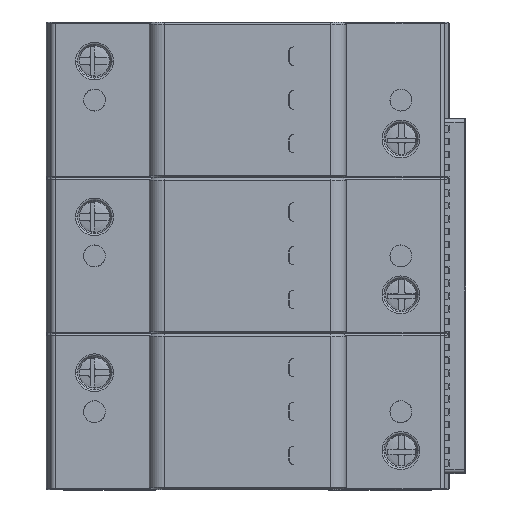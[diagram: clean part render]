
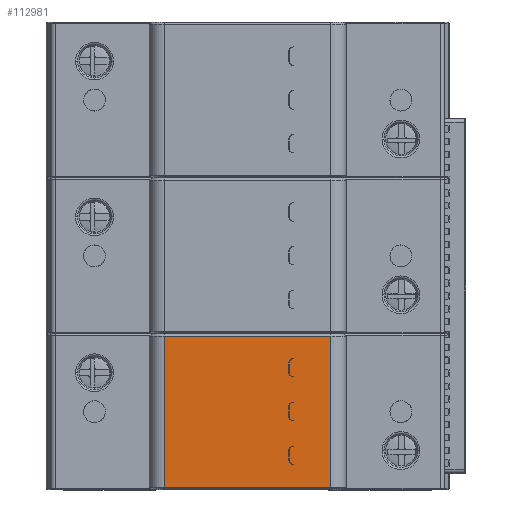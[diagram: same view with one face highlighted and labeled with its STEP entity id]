
A CAD part, top view. The second image highlights one B-rep face of the part: STEP entity #112981.
In plain terms, the highlighted planar face has unit normal (0, 0, 1).
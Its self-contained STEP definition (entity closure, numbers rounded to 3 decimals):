
#18317=DIRECTION('',(-1.,0.,0.));
#18318=VECTOR('',#18317,38.);
#18319=CARTESIAN_POINT('',(64.,0.55,31.2));
#18320=LINE('',#18319,#18318);
#18334=DIRECTION('',(0.,1.,0.));
#18335=VECTOR('',#18334,34.5);
#18336=CARTESIAN_POINT('',(26.,0.55,31.2));
#18337=LINE('',#18336,#18335);
#18342=CARTESIAN_POINT('',(55.45,6.7,31.2));
#18343=DIRECTION('',(0.,0.,1.));
#18344=DIRECTION('',(-1.,0.,0.));
#18345=AXIS2_PLACEMENT_3D('',#18342,#18343,#18344);
#18347=DIRECTION('',(0.,-1.,0.));
#18348=VECTOR('',#18347,2.2);
#18349=CARTESIAN_POINT('',(54.45,8.9,31.2));
#18350=LINE('',#18349,#18348);
#18351=CARTESIAN_POINT('',(55.45,8.9,31.2));
#18352=DIRECTION('',(0.,0.,1.));
#18353=DIRECTION('',(0.,1.,0.));
#18354=AXIS2_PLACEMENT_3D('',#18351,#18352,#18353);
#18356=CARTESIAN_POINT('',(55.4,8.9,31.2));
#18357=DIRECTION('',(0.,0.,-1.));
#18358=DIRECTION('',(-1.,0.,0.));
#18359=AXIS2_PLACEMENT_3D('',#18356,#18357,#18358);
#18361=CARTESIAN_POINT('',(55.4,6.7,31.2));
#18362=DIRECTION('',(0.,0.,-1.));
#18363=DIRECTION('',(0.,-1.,0.));
#18364=AXIS2_PLACEMENT_3D('',#18361,#18362,#18363);
#18366=CARTESIAN_POINT('',(55.45,16.7,31.2));
#18367=DIRECTION('',(0.,0.,1.));
#18368=DIRECTION('',(-1.,0.,0.));
#18369=AXIS2_PLACEMENT_3D('',#18366,#18367,#18368);
#18371=DIRECTION('',(0.,-1.,0.));
#18372=VECTOR('',#18371,2.2);
#18373=CARTESIAN_POINT('',(54.45,18.9,31.2));
#18374=LINE('',#18373,#18372);
#18375=CARTESIAN_POINT('',(55.45,18.9,31.2));
#18376=DIRECTION('',(0.,0.,1.));
#18377=DIRECTION('',(0.,1.,0.));
#18378=AXIS2_PLACEMENT_3D('',#18375,#18376,#18377);
#18380=CARTESIAN_POINT('',(55.4,18.9,31.2));
#18381=DIRECTION('',(0.,0.,-1.));
#18382=DIRECTION('',(-1.,0.,0.));
#18383=AXIS2_PLACEMENT_3D('',#18380,#18381,#18382);
#18385=CARTESIAN_POINT('',(55.4,16.7,31.2));
#18386=DIRECTION('',(0.,0.,-1.));
#18387=DIRECTION('',(0.,-1.,0.));
#18388=AXIS2_PLACEMENT_3D('',#18385,#18386,#18387);
#18390=CARTESIAN_POINT('',(55.45,26.7,31.2));
#18391=DIRECTION('',(0.,0.,1.));
#18392=DIRECTION('',(-1.,0.,0.));
#18393=AXIS2_PLACEMENT_3D('',#18390,#18391,#18392);
#18395=DIRECTION('',(0.,-1.,0.));
#18396=VECTOR('',#18395,2.2);
#18397=CARTESIAN_POINT('',(54.45,28.9,31.2));
#18398=LINE('',#18397,#18396);
#18399=CARTESIAN_POINT('',(55.45,28.9,31.2));
#18400=DIRECTION('',(0.,0.,1.));
#18401=DIRECTION('',(0.,1.,0.));
#18402=AXIS2_PLACEMENT_3D('',#18399,#18400,#18401);
#18404=CARTESIAN_POINT('',(55.4,28.9,31.2));
#18405=DIRECTION('',(0.,0.,-1.));
#18406=DIRECTION('',(-1.,0.,0.));
#18407=AXIS2_PLACEMENT_3D('',#18404,#18405,#18406);
#18409=CARTESIAN_POINT('',(55.4,26.7,31.2));
#18410=DIRECTION('',(0.,0.,-1.));
#18411=DIRECTION('',(0.,-1.,0.));
#18412=AXIS2_PLACEMENT_3D('',#18409,#18410,#18411);
#18418=DIRECTION('',(0.,-1.,0.));
#18419=VECTOR('',#18418,34.5);
#18420=CARTESIAN_POINT('',(64.,35.05,31.2));
#18421=LINE('',#18420,#18419);
#18473=DIRECTION('',(1.,0.,0.));
#18474=VECTOR('',#18473,38.);
#18475=CARTESIAN_POINT('',(26.,35.05,31.2));
#18476=LINE('',#18475,#18474);
#47440=DIRECTION('',(1.,0.,0.));
#47441=VECTOR('',#47440,0.05);
#47442=CARTESIAN_POINT('',(55.4,5.7,31.2));
#47443=LINE('',#47442,#47441);
#50421=DIRECTION('',(0.,-1.,0.));
#50422=VECTOR('',#50421,2.2);
#50423=CARTESIAN_POINT('',(54.4,18.9,31.2));
#50424=LINE('',#50423,#50422);
#50442=DIRECTION('',(1.,0.,0.));
#50443=VECTOR('',#50442,0.05);
#50444=CARTESIAN_POINT('',(55.4,15.7,31.2));
#50445=LINE('',#50444,#50443);
#50488=DIRECTION('',(-1.,0.,0.));
#50489=VECTOR('',#50488,0.05);
#50490=CARTESIAN_POINT('',(55.45,19.9,31.2));
#50491=LINE('',#50490,#50489);
#50697=DIRECTION('',(0.,-1.,0.));
#50698=VECTOR('',#50697,2.2);
#50699=CARTESIAN_POINT('',(54.4,28.9,31.2));
#50700=LINE('',#50699,#50698);
#50718=DIRECTION('',(1.,0.,0.));
#50719=VECTOR('',#50718,0.05);
#50720=CARTESIAN_POINT('',(55.4,25.7,31.2));
#50721=LINE('',#50720,#50719);
#50764=DIRECTION('',(-1.,0.,0.));
#50765=VECTOR('',#50764,0.05);
#50766=CARTESIAN_POINT('',(55.45,29.9,31.2));
#50767=LINE('',#50766,#50765);
#50974=DIRECTION('',(0.,-1.,0.));
#50975=VECTOR('',#50974,2.2);
#50976=CARTESIAN_POINT('',(54.4,8.9,31.2));
#50977=LINE('',#50976,#50975);
#50999=DIRECTION('',(-1.,0.,0.));
#51000=VECTOR('',#50999,0.05);
#51001=CARTESIAN_POINT('',(55.45,9.9,31.2));
#51002=LINE('',#51001,#51000);
#78839=CARTESIAN_POINT('',(55.4,15.7,31.2));
#78840=CARTESIAN_POINT('',(54.4,16.7,31.2));
#78841=VERTEX_POINT('',#78839);
#78842=VERTEX_POINT('',#78840);
#78843=CARTESIAN_POINT('',(54.4,18.9,31.2));
#78844=VERTEX_POINT('',#78843);
#78845=CARTESIAN_POINT('',(55.4,19.9,31.2));
#78846=VERTEX_POINT('',#78845);
#78847=CARTESIAN_POINT('',(55.4,25.7,31.2));
#78848=CARTESIAN_POINT('',(54.4,26.7,31.2));
#78849=VERTEX_POINT('',#78847);
#78850=VERTEX_POINT('',#78848);
#78851=CARTESIAN_POINT('',(54.4,28.9,31.2));
#78852=VERTEX_POINT('',#78851);
#78853=CARTESIAN_POINT('',(55.4,29.9,31.2));
#78854=VERTEX_POINT('',#78853);
#78855=CARTESIAN_POINT('',(55.4,5.7,31.2));
#78856=CARTESIAN_POINT('',(54.4,6.7,31.2));
#78857=VERTEX_POINT('',#78855);
#78858=VERTEX_POINT('',#78856);
#78859=CARTESIAN_POINT('',(54.4,8.9,31.2));
#78860=VERTEX_POINT('',#78859);
#78861=CARTESIAN_POINT('',(55.4,9.9,31.2));
#78862=VERTEX_POINT('',#78861);
#78863=CARTESIAN_POINT('',(64.,35.05,31.2));
#78864=CARTESIAN_POINT('',(64.,0.55,31.2));
#78865=VERTEX_POINT('',#78863);
#78866=VERTEX_POINT('',#78864);
#78867=CARTESIAN_POINT('',(26.,35.05,31.2));
#78868=VERTEX_POINT('',#78867);
#78869=CARTESIAN_POINT('',(26.,0.55,31.2));
#78870=VERTEX_POINT('',#78869);
#80000=CARTESIAN_POINT('',(54.45,8.9,31.2));
#80001=CARTESIAN_POINT('',(54.45,6.7,31.2));
#80002=VERTEX_POINT('',#80000);
#80003=VERTEX_POINT('',#80001);
#80020=CARTESIAN_POINT('',(55.45,9.9,31.2));
#80021=VERTEX_POINT('',#80020);
#80022=CARTESIAN_POINT('',(55.45,5.7,31.2));
#80023=VERTEX_POINT('',#80022);
#80032=CARTESIAN_POINT('',(54.45,18.9,31.2));
#80033=CARTESIAN_POINT('',(54.45,16.7,31.2));
#80034=VERTEX_POINT('',#80032);
#80035=VERTEX_POINT('',#80033);
#80052=CARTESIAN_POINT('',(55.45,19.9,31.2));
#80053=VERTEX_POINT('',#80052);
#80054=CARTESIAN_POINT('',(55.45,15.7,31.2));
#80055=VERTEX_POINT('',#80054);
#80064=CARTESIAN_POINT('',(54.45,28.9,31.2));
#80065=CARTESIAN_POINT('',(54.45,26.7,31.2));
#80066=VERTEX_POINT('',#80064);
#80067=VERTEX_POINT('',#80065);
#80084=CARTESIAN_POINT('',(55.45,29.9,31.2));
#80085=VERTEX_POINT('',#80084);
#80086=CARTESIAN_POINT('',(55.45,25.7,31.2));
#80087=VERTEX_POINT('',#80086);
#112914=CARTESIAN_POINT('',(45.,17.8,31.2));
#112915=DIRECTION('',(0.,0.,1.));
#112916=DIRECTION('',(1.,0.,0.));
#112917=AXIS2_PLACEMENT_3D('',#112914,#112915,#112916);
#112918=PLANE('',#112917);
#112920=ORIENTED_EDGE('',*,*,#112919,.T.);
#112921=ORIENTED_EDGE('',*,*,#112881,.T.);
#112922=ORIENTED_EDGE('',*,*,#112904,.T.);
#112924=ORIENTED_EDGE('',*,*,#112923,.T.);
#112925=EDGE_LOOP('',(#112920,#112921,#112922,#112924));
#112926=FACE_OUTER_BOUND('',#112925,.F.);
#112928=ORIENTED_EDGE('',*,*,#112927,.T.);
#112930=ORIENTED_EDGE('',*,*,#112929,.F.);
#112932=ORIENTED_EDGE('',*,*,#112931,.F.);
#112934=ORIENTED_EDGE('',*,*,#112933,.F.);
#112936=ORIENTED_EDGE('',*,*,#112935,.T.);
#112938=ORIENTED_EDGE('',*,*,#112937,.F.);
#112940=ORIENTED_EDGE('',*,*,#112939,.T.);
#112942=ORIENTED_EDGE('',*,*,#112941,.F.);
#112943=EDGE_LOOP('',(#112928,#112930,#112932,#112934,#112936,#112938,#112940,
#112942));
#112944=FACE_BOUND('',#112943,.F.);
#112946=ORIENTED_EDGE('',*,*,#112945,.T.);
#112948=ORIENTED_EDGE('',*,*,#112947,.F.);
#112950=ORIENTED_EDGE('',*,*,#112949,.F.);
#112952=ORIENTED_EDGE('',*,*,#112951,.F.);
#112954=ORIENTED_EDGE('',*,*,#112953,.T.);
#112956=ORIENTED_EDGE('',*,*,#112955,.F.);
#112958=ORIENTED_EDGE('',*,*,#112957,.T.);
#112960=ORIENTED_EDGE('',*,*,#112959,.F.);
#112961=EDGE_LOOP('',(#112946,#112948,#112950,#112952,#112954,#112956,#112958,
#112960));
#112962=FACE_BOUND('',#112961,.F.);
#112964=ORIENTED_EDGE('',*,*,#112963,.T.);
#112966=ORIENTED_EDGE('',*,*,#112965,.F.);
#112968=ORIENTED_EDGE('',*,*,#112967,.F.);
#112970=ORIENTED_EDGE('',*,*,#112969,.F.);
#112972=ORIENTED_EDGE('',*,*,#112971,.T.);
#112974=ORIENTED_EDGE('',*,*,#112973,.F.);
#112976=ORIENTED_EDGE('',*,*,#112975,.T.);
#112978=ORIENTED_EDGE('',*,*,#112977,.F.);
#112979=EDGE_LOOP('',(#112964,#112966,#112968,#112970,#112972,#112974,#112976,
#112978));
#112980=FACE_BOUND('',#112979,.F.);
#112981=ADVANCED_FACE('',(#112926,#112944,#112962,#112980),#112918,.T.);
#18346=CIRCLE('',#18345,1.);
#18355=CIRCLE('',#18354,1.);
#18360=CIRCLE('',#18359,1.);
#18365=CIRCLE('',#18364,1.);
#18370=CIRCLE('',#18369,1.);
#18379=CIRCLE('',#18378,1.);
#18384=CIRCLE('',#18383,1.);
#18389=CIRCLE('',#18388,1.);
#18394=CIRCLE('',#18393,1.);
#18403=CIRCLE('',#18402,1.);
#18408=CIRCLE('',#18407,1.);
#18413=CIRCLE('',#18412,1.);
#112881=EDGE_CURVE('',#78866,#78870,#18320,.T.);
#112904=EDGE_CURVE('',#78870,#78868,#18337,.T.);
#112919=EDGE_CURVE('',#78865,#78866,#18421,.T.);
#112923=EDGE_CURVE('',#78868,#78865,#18476,.T.);
#112927=EDGE_CURVE('',#78857,#80023,#47443,.T.);
#112929=EDGE_CURVE('',#80003,#80023,#18346,.T.);
#112931=EDGE_CURVE('',#80002,#80003,#18350,.T.);
#112933=EDGE_CURVE('',#80021,#80002,#18355,.T.);
#112935=EDGE_CURVE('',#80021,#78862,#51002,.T.);
#112937=EDGE_CURVE('',#78860,#78862,#18360,.T.);
#112939=EDGE_CURVE('',#78860,#78858,#50977,.T.);
#112941=EDGE_CURVE('',#78857,#78858,#18365,.T.);
#112945=EDGE_CURVE('',#78841,#80055,#50445,.T.);
#112947=EDGE_CURVE('',#80035,#80055,#18370,.T.);
#112949=EDGE_CURVE('',#80034,#80035,#18374,.T.);
#112951=EDGE_CURVE('',#80053,#80034,#18379,.T.);
#112953=EDGE_CURVE('',#80053,#78846,#50491,.T.);
#112955=EDGE_CURVE('',#78844,#78846,#18384,.T.);
#112957=EDGE_CURVE('',#78844,#78842,#50424,.T.);
#112959=EDGE_CURVE('',#78841,#78842,#18389,.T.);
#112963=EDGE_CURVE('',#78849,#80087,#50721,.T.);
#112965=EDGE_CURVE('',#80067,#80087,#18394,.T.);
#112967=EDGE_CURVE('',#80066,#80067,#18398,.T.);
#112969=EDGE_CURVE('',#80085,#80066,#18403,.T.);
#112971=EDGE_CURVE('',#80085,#78854,#50767,.T.);
#112973=EDGE_CURVE('',#78852,#78854,#18408,.T.);
#112975=EDGE_CURVE('',#78852,#78850,#50700,.T.);
#112977=EDGE_CURVE('',#78849,#78850,#18413,.T.);
